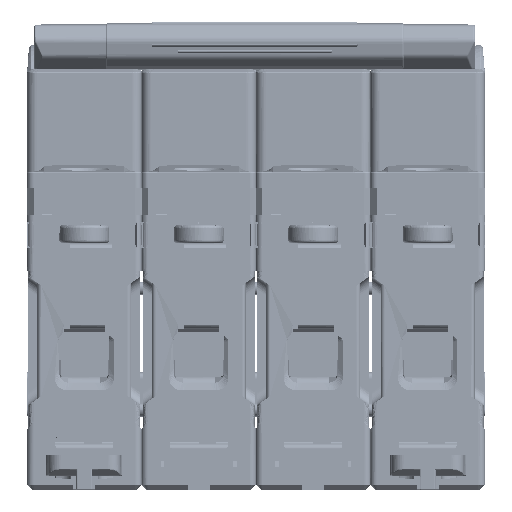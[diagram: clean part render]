
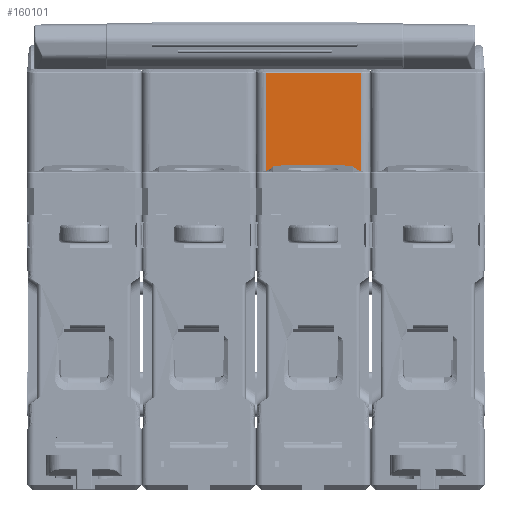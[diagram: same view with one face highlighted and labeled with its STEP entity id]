
A CAD part, front view. The second image highlights one B-rep face of the part: STEP entity #160101.
In plain terms, the highlighted planar face has unit normal (0, -1, 0) as drawn and (-1, 0, 0) by its records, which use the part's own axes.
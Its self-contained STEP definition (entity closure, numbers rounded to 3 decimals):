
#5227 = EDGE_CURVE ( 'NONE', #340358, #496076, #435831, .T. ) ;
#6964 = ORIENTED_EDGE ( 'NONE', *, *, #509920, .T. ) ;
#12424 = CARTESIAN_POINT ( 'NONE',  ( 19.555, 54.619, 18.57 ) ) ;
#21433 = DIRECTION ( 'NONE',  ( 0., 0., 1. ) ) ;
#22078 = CARTESIAN_POINT ( 'NONE',  ( 19.555, 64.856, 18.619 ) ) ;
#50567 = CARTESIAN_POINT ( 'NONE',  ( 19.555, 64.856, 18.57 ) ) ;
#54908 = CARTESIAN_POINT ( 'NONE',  ( 19.555, 64.856, 18.602 ) ) ;
#141311 = VERTEX_POINT ( 'NONE', #266029 ) ;
#141761 = FACE_OUTER_BOUND ( 'NONE', #310535, .T. ) ;
#154920 = PLANE ( 'NONE',  #285988 ) ;
#155563 = CARTESIAN_POINT ( 'NONE',  ( 19.555, 64.856, 28.421 ) ) ;
#160101 = ADVANCED_FACE ( 'NONE', ( #141761 ), #154920, .T. ) ;
#165576 = ORIENTED_EDGE ( 'NONE', *, *, #723052, .T. ) ;
#168079 = DIRECTION ( 'NONE',  ( -1., 0., 0. ) ) ;
#173739 = CARTESIAN_POINT ( 'NONE',  ( 19.555, 64.856, 18.619 ) ) ;
#182480 = CARTESIAN_POINT ( 'NONE',  ( 19.555, 49.5, 33.37 ) ) ;
#188517 = CARTESIAN_POINT ( 'NONE',  ( 19.555, 64.856, 18.619 ) ) ;
#212368 = CARTESIAN_POINT ( 'NONE',  ( 19.555, 49.5, 33.37 ) ) ;
#216755 = CARTESIAN_POINT ( 'NONE',  ( 19.555, 49.5, 23.503 ) ) ;
#244041 = CARTESIAN_POINT ( 'NONE',  ( 19.555, 64.856, 33.37 ) ) ;
#247078 = CARTESIAN_POINT ( 'NONE',  ( 19.555, 49.5, 18.57 ) ) ;
#248374 = CARTESIAN_POINT ( 'NONE',  ( 19.555, 64.856, 33.354 ) ) ;
#266029 = CARTESIAN_POINT ( 'NONE',  ( 19.555, 64.856, 33.322 ) ) ;
#273728 = CARTESIAN_POINT ( 'NONE',  ( 19.555, 54.619, 33.37 ) ) ;
#279469 = CARTESIAN_POINT ( 'NONE',  ( 19.555, 64.856, 18.57 ) ) ;
#285988 = AXIS2_PLACEMENT_3D ( 'NONE', #297225, #168079, #21433 ) ;
#297225 = CARTESIAN_POINT ( 'NONE',  ( 19.555, 48.9, 17.07 ) ) ;
#310535 = EDGE_LOOP ( 'NONE', ( #6964, #609743, #702356, #548908, #165576, #543145 ) ) ;
#323550 = B_SPLINE_CURVE_WITH_KNOTS ( 'NONE', 3,
 ( #803122, #469439, #273728, #607357 ),
 .UNSPECIFIED., .F., .F.,
 ( 4, 4 ),
 ( 0., 1. ),
 .UNSPECIFIED. ) ;
#340358 = VERTEX_POINT ( 'NONE', #617149 ) ;
#350216 = CARTESIAN_POINT ( 'NONE',  ( 19.555, 49.5, 28.437 ) ) ;
#369331 = EDGE_CURVE ( 'NONE', #524412, #417541, #323550, .T. ) ;
#417541 = VERTEX_POINT ( 'NONE', #182480 ) ;
#435831 = B_SPLINE_CURVE_WITH_KNOTS ( 'NONE', 3,
 ( #279469, #822068, #12424, #546354 ),
 .UNSPECIFIED., .F., .F.,
 ( 4, 4 ),
 ( 0., 1. ),
 .UNSPECIFIED. ) ;
#469439 = CARTESIAN_POINT ( 'NONE',  ( 19.555, 59.737, 33.37 ) ) ;
#496076 = VERTEX_POINT ( 'NONE', #247078 ) ;
#509920 = EDGE_CURVE ( 'NONE', #800222, #340358, #875963, .T. ) ;
#524412 = VERTEX_POINT ( 'NONE', #673172 ) ;
#543145 = ORIENTED_EDGE ( 'NONE', *, *, #645469, .T. ) ;
#546354 = CARTESIAN_POINT ( 'NONE',  ( 19.555, 49.5, 18.57 ) ) ;
#548908 = ORIENTED_EDGE ( 'NONE', *, *, #369331, .F. ) ;
#551499 = EDGE_CURVE ( 'NONE', #417541, #496076, #753539, .T. ) ;
#607357 = CARTESIAN_POINT ( 'NONE',  ( 19.555, 49.5, 33.37 ) ) ;
#609743 = ORIENTED_EDGE ( 'NONE', *, *, #5227, .T. ) ;
#617149 = CARTESIAN_POINT ( 'NONE',  ( 19.555, 64.856, 18.57 ) ) ;
#644738 = CARTESIAN_POINT ( 'NONE',  ( 19.555, 64.856, 33.322 ) ) ;
#645469 = EDGE_CURVE ( 'NONE', #141311, #800222, #837111, .T. ) ;
#673172 = CARTESIAN_POINT ( 'NONE',  ( 19.555, 64.856, 33.37 ) ) ;
#698368 = CARTESIAN_POINT ( 'NONE',  ( 19.555, 64.856, 23.52 ) ) ;
#702356 = ORIENTED_EDGE ( 'NONE', *, *, #551499, .F. ) ;
#723052 = EDGE_CURVE ( 'NONE', #524412, #141311, #838857, .T. ) ;
#753539 = B_SPLINE_CURVE_WITH_KNOTS ( 'NONE', 3,
 ( #212368, #350216, #216755, #879618 ),
 .UNSPECIFIED., .F., .F.,
 ( 4, 4 ),
 ( 0., 1. ),
 .UNSPECIFIED. ) ;
#786585 = CARTESIAN_POINT ( 'NONE',  ( 19.555, 64.856, 33.338 ) ) ;
#789092 = CARTESIAN_POINT ( 'NONE',  ( 19.555, 64.856, 18.586 ) ) ;
#800222 = VERTEX_POINT ( 'NONE', #173739 ) ;
#803122 = CARTESIAN_POINT ( 'NONE',  ( 19.555, 64.856, 33.37 ) ) ;
#822068 = CARTESIAN_POINT ( 'NONE',  ( 19.555, 59.737, 18.57 ) ) ;
#837111 = B_SPLINE_CURVE_WITH_KNOTS ( 'NONE', 3,
 ( #644738, #155563, #698368, #22078 ),
 .UNSPECIFIED., .F., .F.,
 ( 4, 4 ),
 ( 0., 1. ),
 .UNSPECIFIED. ) ;
#838857 = B_SPLINE_CURVE_WITH_KNOTS ( 'NONE', 3,
 ( #244041, #248374, #786585, #848938 ),
 .UNSPECIFIED., .F., .F.,
 ( 4, 4 ),
 ( 0., 1. ),
 .UNSPECIFIED. ) ;
#848938 = CARTESIAN_POINT ( 'NONE',  ( 19.555, 64.856, 33.322 ) ) ;
#875963 = B_SPLINE_CURVE_WITH_KNOTS ( 'NONE', 3,
 ( #188517, #54908, #789092, #50567 ),
 .UNSPECIFIED., .F., .F.,
 ( 4, 4 ),
 ( 0., 1. ),
 .UNSPECIFIED. ) ;
#879618 = CARTESIAN_POINT ( 'NONE',  ( 19.555, 49.5, 18.57 ) ) ;
